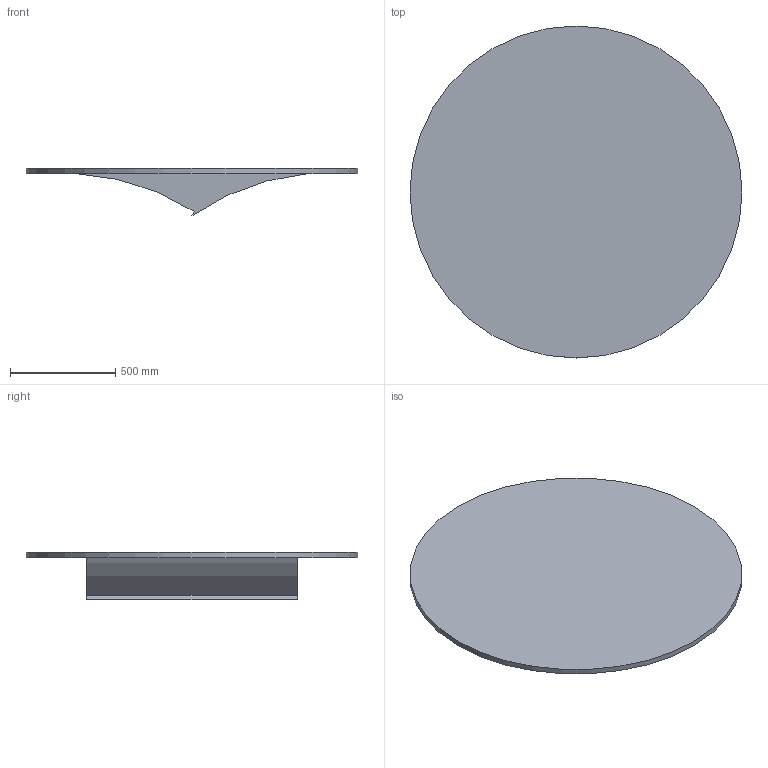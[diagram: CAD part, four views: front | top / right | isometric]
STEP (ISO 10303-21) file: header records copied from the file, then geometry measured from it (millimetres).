
FILE_DESCRIPTION( ( 'Unknown' ), '1' );
FILE_NAME( 'C:/Users/work/Documents/Solid Edge/heavy_gas_cherenkov/step/rohacell_cut_corners_round.step', 'Unknown', ( 'Unknown' ), ( 'Unknown' ), 'PSStep 10.1', 'Unknown', ' ' );
FILE_SCHEMA( ( 'AUTOMOTIVE_DESIGN { 1 0 10303 214 1 1 1 1 }' ) );
Length unit declared in the file: millimetre
Products named in the file (1): 1
Bounding box: 1580 x 1580 x 225.4 mm (x, y, z)
Volume: 123435731.9 mm3; surface area: 4303612.4 mm2
Topology: 1 solids, 1 shells, 8 faces, 15 edges, 10 vertices
Faces by surface type: plane 5, cylinder 3
Full cylindrical faces by diameter (mm): 1580 x1
Entity records: 280 total; most frequent: DIRECTION 38, CARTESIAN_POINT 33, ORIENTED_EDGE 28, AXIS2_PLACEMENT_3D 15, EDGE_CURVE 14, EDGE_LOOP 10, VERTEX_POINT 10, FACE_OUTER_BOUND 9
